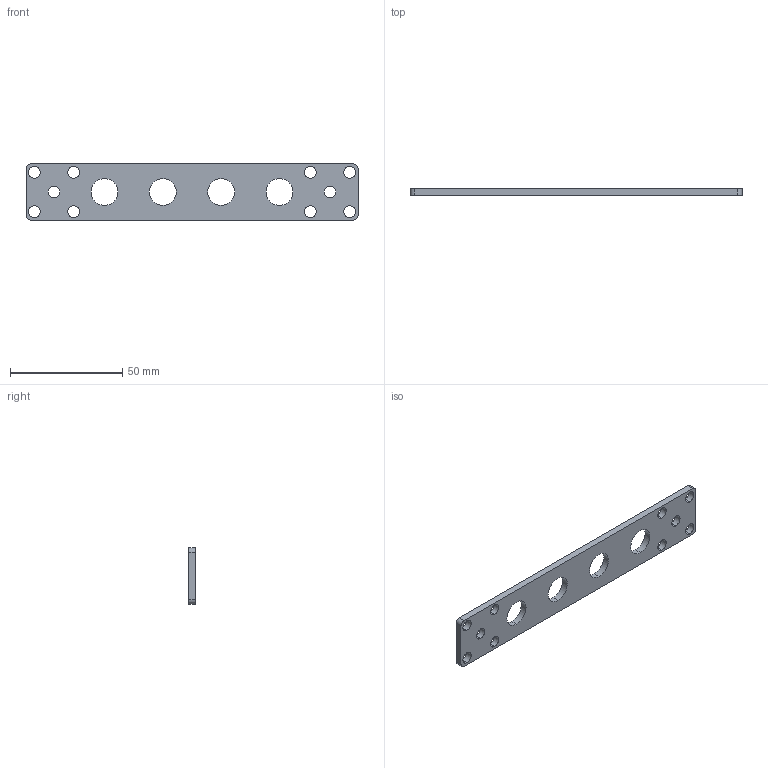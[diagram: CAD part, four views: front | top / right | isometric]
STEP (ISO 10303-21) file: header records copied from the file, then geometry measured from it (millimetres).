
FILE_DESCRIPTION (( 'STEP AP214' ), '1' );
FILE_NAME ('SMBD2-12025.STEP', '2019-10-31T07:10:24', ( '微软用户' ), ( '微软中国' ), 'SwSTEP 2.0', 'SolidWorks 2016', '' );
FILE_SCHEMA (( 'AUTOMOTIVE_DESIGN' ));
Length unit declared in the file: millimetre
Products named in the file (1): SMBD2-12025
Bounding box: 148 x 3 x 25 mm (x, y, z)
Volume: 9095.4 mm3; surface area: 8033.8 mm2
Topology: 1 solids, 1 shells, 38 faces, 108 edges, 72 vertices
Faces by surface type: cylinder 32, plane 6
Entity records: 1366 total; most frequent: DIRECTION 250, CARTESIAN_POINT 219, ORIENTED_EDGE 216, EDGE_CURVE 108, AXIS2_PLACEMENT_3D 103, VERTEX_POINT 72, EDGE_LOOP 66, CIRCLE 64
